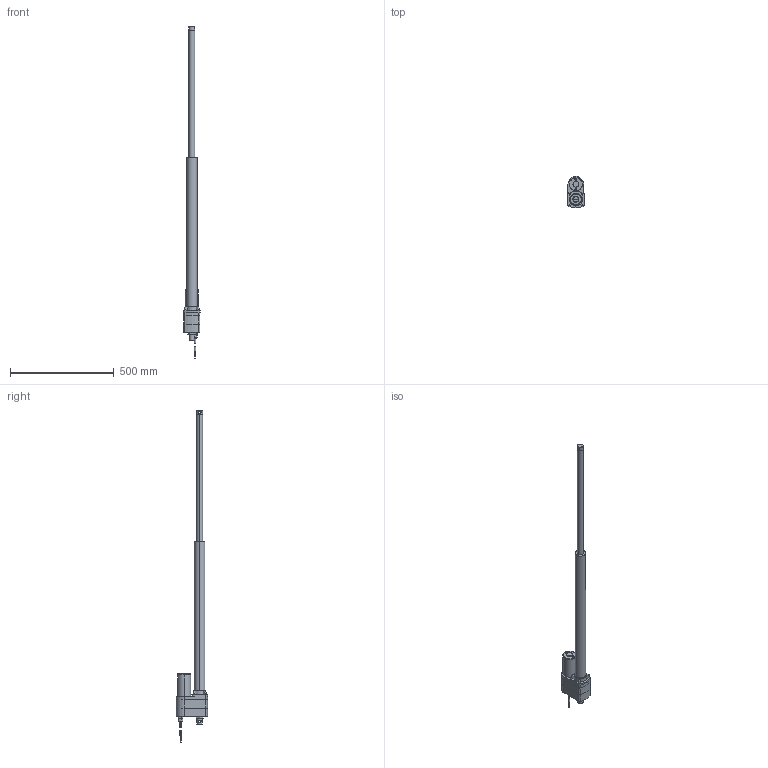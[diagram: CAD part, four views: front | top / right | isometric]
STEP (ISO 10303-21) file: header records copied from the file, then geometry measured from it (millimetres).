
FILE_DESCRIPTION (( 'STEP AP203' ), '1' );
FILE_NAME ('LA5_ACME_24_POT_x.step', '2021-02-24T15:19:16', ( '' ), ( '' ), 'SwSTEP 2.0', 'SolidWorks 2017', '' );
FILE_SCHEMA (( 'CONFIG_CONTROL_DESIGN' ));
Length unit declared in the file: millimetre
Products named in the file (1): LA5_ACME_24_POT_x
Bounding box: 77.22 x 151.29 x 1599.39 mm (x, y, z)
Volume: 3384428 mm3; surface area: 331827.1 mm2
Topology: 14 solids, 14 shells, 333 faces, 716 edges, 446 vertices
Faces by surface type: plane 160, cylinder 113, cone 24, bspline 22, torus 10, sphere 4
Entity records: 11050 total; most frequent: CARTESIAN_POINT 3684, DIRECTION 1573, ORIENTED_EDGE 1432, EDGE_CURVE 716, AXIS2_PLACEMENT_3D 615, VERTEX_POINT 446, EDGE_LOOP 376, VECTOR 343
